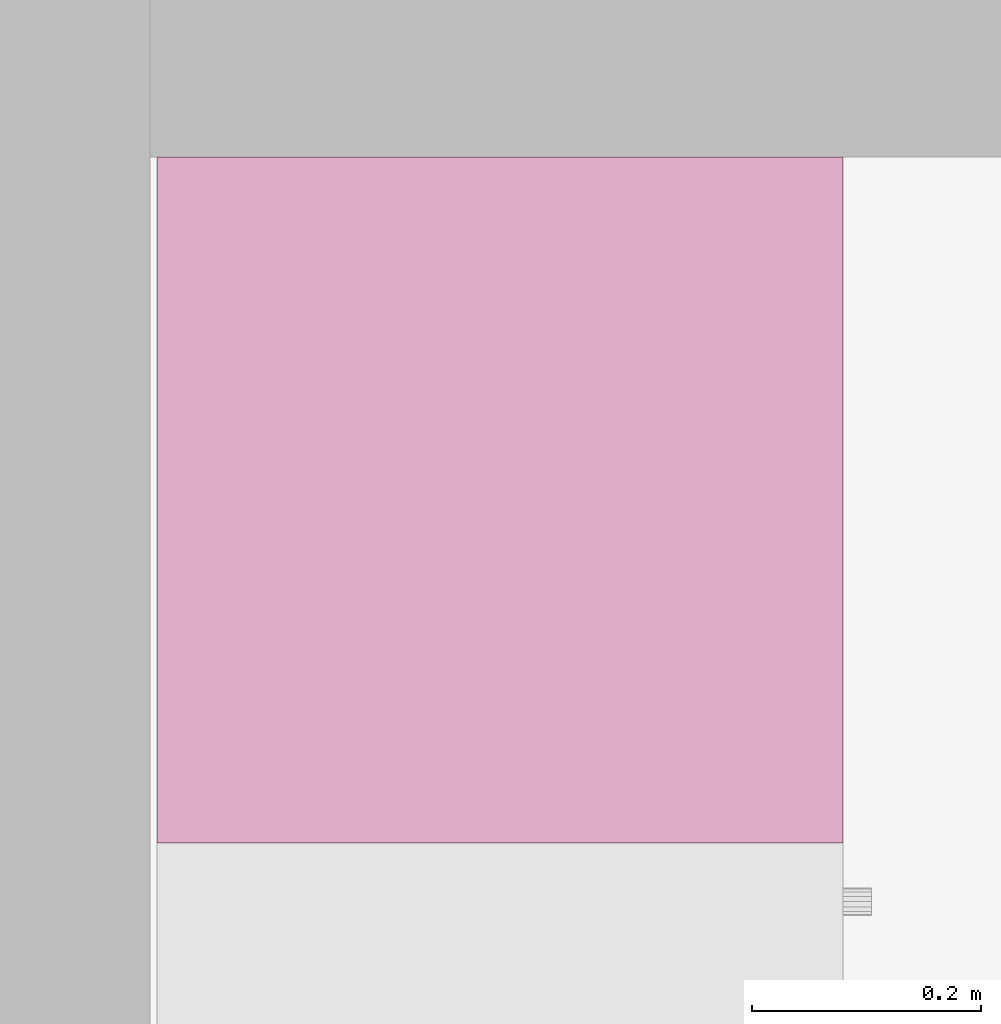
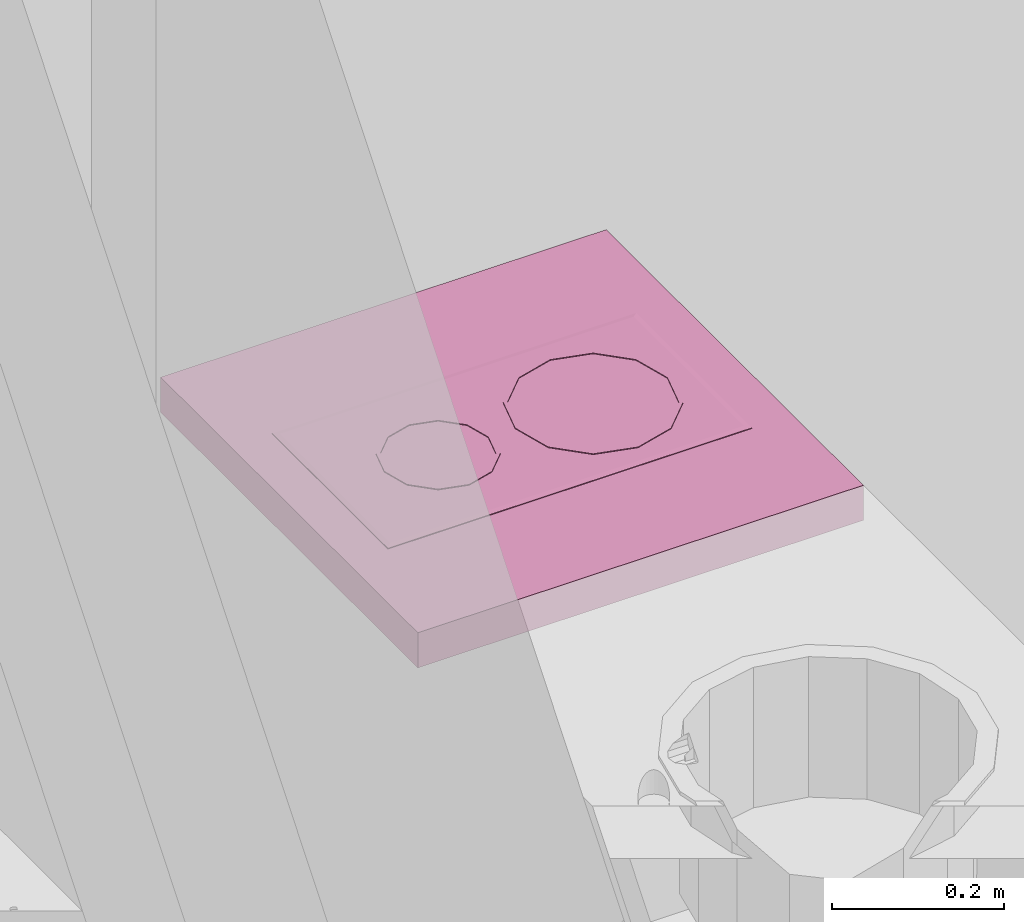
# One storey, part 154 of 165: 1 furnishing.
"""IFC2X3 building model written with IfcOpenShell, lengths in millimetres."""

from ifc_helpers import new_model, entity, si_unit, converted_unit, money_unit, direction, frame, origin_with_axes, place, context, subcontext, project, spatial, faceted_brep, source, transform, mapped, material, material_list, type_object, element, save


model = new_model("IFC2X3")

# Units and contexts
model_context = context("Model", 3, precision=1e-05, world=origin_with_axes(), true_north=direction((0.0, 1.0)))
body_context = subcontext(model_context, "Body", "Model", "MODEL_VIEW")
ifc_project = project(units=[si_unit("LENGTHUNIT", "METRE", prefix="MILLI"), si_unit("AREAUNIT", "SQUARE_METRE"), si_unit("VOLUMEUNIT", "CUBIC_METRE"), converted_unit("PLANEANGLEUNIT", "DEGREE", entity("IfcPlaneAngleMeasure", 0.0174532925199), si_unit("PLANEANGLEUNIT", "RADIAN"), dimensions=[0, 0, 0, 0, 0, 0, 0]), si_unit("SOLIDANGLEUNIT", "STERADIAN"), money_unit("USD"), converted_unit("TIMEUNIT", "Year", entity("IfcTimeMeasure", 31556926.0), si_unit("TIMEUNIT", "SECOND"), dimensions=[0, 0, 0, 0, 0, 0, 0]), si_unit("MASSUNIT", "GRAM"), si_unit("THERMODYNAMICTEMPERATUREUNIT", "DEGREE_CELSIUS"), si_unit("LUMINOUSINTENSITYUNIT", "LUMEN")], contexts=[model_context])

# Site, building, storey
site_placement = place(None, origin_with_axes())
site = spatial("IfcSite", under=ifc_project, at=site_placement, Name="Site", CompositionType="ELEMENT")
building_placement = place(site_placement, origin_with_axes())
building = spatial("IfcBuilding", under=site, at=building_placement, Name="Building", CompositionType="ELEMENT")
storey_placement = place(building_placement, frame((0.0, 0.0, 6300.0), z_axis=(0.0, 0.0, 1.0), x_axis=(1.0, 0.0, 0.0)))
storey = spatial("IfcBuildingStorey", under=building, at=storey_placement, Name="4KORRUS", CompositionType="ELEMENT", Elevation=6300.0)

# Furnishing
ifc_material = material(Name="Background")
ifc_material_list = material_list([ifc_material])
furnishing_element_type = type_object("IfcFurnishingElementType", Name="Built-in Cooktops 19")
shared_shape = source(origin_with_axes(), body_context, "Body", "Brep", [
    faceted_brep([(0.0, 0.0, 850.0), (0.0, 0.0, 900.0), (-600.0, 0.0, 900.0), (-600.0, 0.0, 850.0), (0.0, 600.0, 850.0), (0.0, 600.0, 900.0), (-600.0, 600.0, 900.0), (-600.0, 600.0, 850.0)], [[[0, 1, 2, 3]], [[4, 5, 1, 0]], [[1, 5, 6, 2]], [[3, 2, 6, 7]], [[0, 3, 7, 4]], [[7, 6, 5, 4]]]),
    faceted_brep([(-165.0, 55.0, 900.0), (-435.0, 55.0, 900.0), (-435.0, 545.0, 900.0), (-165.0, 545.0, 900.0), (-165.0, 55.0, 900.8), (-435.0, 55.0, 900.8), (-435.0, 545.0, 900.8), (-165.0, 545.0, 900.8), (-171.806, 61.806, 902.0), (-428.194, 61.806, 902.0), (-428.194, 538.194, 902.0), (-171.806, 538.194, 902.0)], [[[0, 1, 2, 3]], [[0, 4, 5, 1]], [[1, 5, 6, 2]], [[2, 6, 7, 3]], [[3, 7, 4, 0]], [[4, 8, 9, 5]], [[5, 9, 10, 6]], [[6, 10, 11, 7]], [[7, 11, 8, 4]], [[10, 9, 8, 11]]]),
    faceted_brep([(-195.0, 409.27, 902.0), (-195.0, 409.27, 903.0), (-209.067, 356.77, 903.0), (-209.067, 356.77, 902.0), (-209.067, 461.77, 902.0), (-209.067, 461.77, 903.0), (-247.5, 500.203, 903.0), (-300.0, 514.27, 903.0), (-352.5, 500.203, 903.0), (-390.933, 461.77, 903.0), (-405.0, 409.27, 903.0), (-390.933, 356.77, 903.0), (-352.5, 318.337, 903.0), (-300.0, 304.27, 903.0), (-247.5, 318.337, 903.0), (-200.0, 409.27, 903.0), (-213.397, 359.27, 903.0), (-250.0, 322.667, 903.0), (-300.0, 309.27, 903.0), (-350.0, 322.667, 903.0), (-386.603, 359.27, 903.0), (-400.0, 409.27, 903.0), (-386.603, 459.27, 903.0), (-350.0, 495.873, 903.0), (-300.0, 509.27, 903.0), (-250.0, 495.873, 903.0), (-213.397, 459.27, 903.0), (-247.5, 318.337, 902.0), (-300.0, 304.27, 902.0), (-352.5, 318.337, 902.0), (-390.933, 356.77, 902.0), (-405.0, 409.27, 902.0), (-390.933, 461.77, 902.0), (-352.5, 500.203, 902.0), (-300.0, 514.27, 902.0), (-247.5, 500.203, 902.0), (-200.0, 409.27, 902.0), (-213.397, 459.27, 902.0), (-250.0, 495.873, 902.0), (-300.0, 509.27, 902.0), (-350.0, 495.873, 902.0), (-386.603, 459.27, 902.0), (-400.0, 409.27, 902.0), (-386.603, 359.27, 902.0), (-350.0, 322.667, 902.0), (-300.0, 309.27, 902.0), (-250.0, 322.667, 902.0), (-213.397, 359.27, 902.0)], [[[0, 1, 2, 3]], [[4, 5, 1, 0]], [[1, 5, 6, 7, 8, 9, 10, 11, 12, 13, 14, 2], [15, 16, 17, 18, 19, 20, 21, 22, 23, 24, 25, 26]], [[3, 2, 14, 27]], [[0, 3, 27, 28, 29, 30, 31, 32, 33, 34, 35, 4], [36, 37, 38, 39, 40, 41, 42, 43, 44, 45, 46, 47]], [[35, 6, 5, 4]], [[34, 7, 6, 35]], [[33, 8, 7, 34]], [[32, 9, 8, 33]], [[31, 10, 9, 32]], [[30, 11, 10, 31]], [[29, 12, 11, 30]], [[28, 13, 12, 29]], [[27, 14, 13, 28]], [[47, 16, 15, 36]], [[46, 17, 16, 47]], [[45, 18, 17, 46]], [[44, 19, 18, 45]], [[43, 20, 19, 44]], [[42, 21, 20, 43]], [[41, 22, 21, 42]], [[40, 23, 22, 41]], [[39, 24, 23, 40]], [[38, 25, 24, 39]], [[37, 26, 25, 38]], [[36, 15, 26, 37]]]),
    faceted_brep([(-227.5, 200.53, 902.0), (-227.5, 200.53, 903.0), (-237.213, 164.28, 903.0), (-237.213, 164.28, 902.0), (-237.213, 236.78, 902.0), (-237.213, 236.78, 903.0), (-263.75, 263.317, 903.0), (-300.0, 273.03, 903.0), (-336.25, 263.317, 903.0), (-362.787, 236.78, 903.0), (-372.5, 200.53, 903.0), (-362.787, 164.28, 903.0), (-336.25, 137.743, 903.0), (-300.0, 128.03, 903.0), (-263.75, 137.743, 903.0), (-232.5, 200.53, 903.0), (-241.543, 166.78, 903.0), (-266.25, 142.073, 903.0), (-300.0, 133.03, 903.0), (-333.75, 142.073, 903.0), (-358.457, 166.78, 903.0), (-367.5, 200.53, 903.0), (-358.457, 234.28, 903.0), (-333.75, 258.987, 903.0), (-300.0, 268.03, 903.0), (-266.25, 258.987, 903.0), (-241.543, 234.28, 903.0), (-263.75, 137.743, 902.0), (-300.0, 128.03, 902.0), (-336.25, 137.743, 902.0), (-362.787, 164.28, 902.0), (-372.5, 200.53, 902.0), (-362.787, 236.78, 902.0), (-336.25, 263.317, 902.0), (-300.0, 273.03, 902.0), (-263.75, 263.317, 902.0), (-232.5, 200.53, 902.0), (-241.543, 234.28, 902.0), (-266.25, 258.987, 902.0), (-300.0, 268.03, 902.0), (-333.75, 258.987, 902.0), (-358.457, 234.28, 902.0), (-367.5, 200.53, 902.0), (-358.457, 166.78, 902.0), (-333.75, 142.073, 902.0), (-300.0, 133.03, 902.0), (-266.25, 142.073, 902.0), (-241.543, 166.78, 902.0)], [[[0, 1, 2, 3]], [[4, 5, 1, 0]], [[1, 5, 6, 7, 8, 9, 10, 11, 12, 13, 14, 2], [15, 16, 17, 18, 19, 20, 21, 22, 23, 24, 25, 26]], [[3, 2, 14, 27]], [[0, 3, 27, 28, 29, 30, 31, 32, 33, 34, 35, 4], [36, 37, 38, 39, 40, 41, 42, 43, 44, 45, 46, 47]], [[35, 6, 5, 4]], [[34, 7, 6, 35]], [[33, 8, 7, 34]], [[32, 9, 8, 33]], [[31, 10, 9, 32]], [[30, 11, 10, 31]], [[29, 12, 11, 30]], [[28, 13, 12, 29]], [[27, 14, 13, 28]], [[47, 16, 15, 36]], [[46, 17, 16, 47]], [[45, 18, 17, 46]], [[44, 19, 18, 45]], [[43, 20, 19, 44]], [[42, 21, 20, 43]], [[41, 22, 21, 42]], [[40, 23, 22, 41]], [[39, 24, 23, 40]], [[38, 25, 24, 39]], [[37, 26, 25, 38]], [[36, 15, 26, 37]]]),
])
furnishing_placement = place(storey_placement, frame((-23984.008308, -13789.2398994, 0.0), z_axis=(0.0, 0.0, 1.0), x_axis=(0.0, -1.0, 0.0)))
element("IfcFurnishingElement", 1, at=furnishing_placement, inside=storey, type_object=furnishing_element_type, material=ifc_material_list, Name="FU - 007", context=body_context, shape_type="MappedRepresentation", body=[
    mapped(shared_shape, transform((0.0, 0.0, 0.0))),
])

save(model, "model.ifc")
